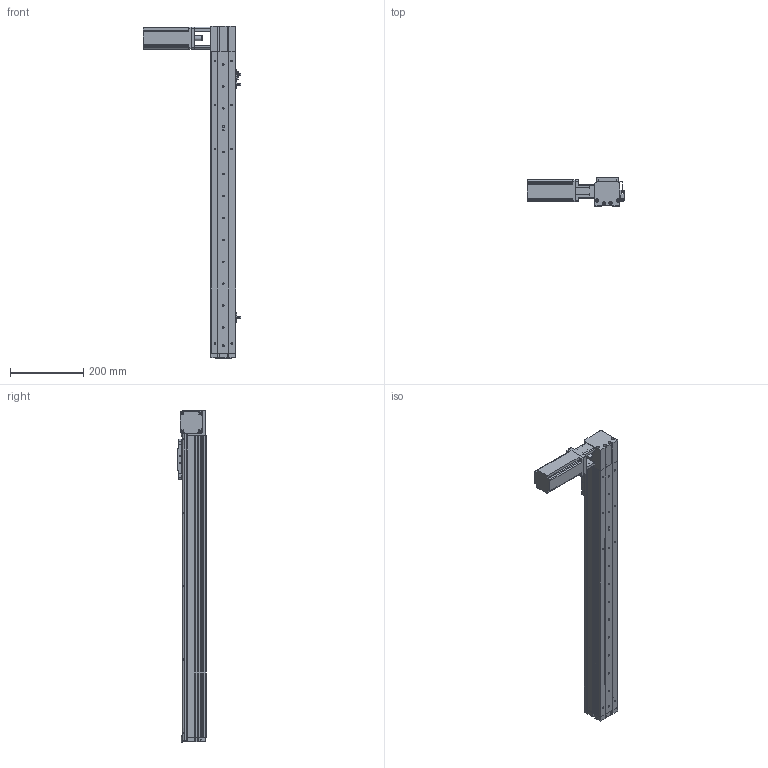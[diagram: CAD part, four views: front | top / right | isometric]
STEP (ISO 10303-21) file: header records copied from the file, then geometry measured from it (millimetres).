
FILE_DESCRIPTION (( 'STEP AP214' ), '1' );
FILE_NAME ('KSD68BS-S650-MLT-CR.STEP', '2019-11-08T05:18:31', ( '微软用户' ), ( '微软中国' ), 'SwSTEP 2.0', 'SolidWorks 2014', '' );
FILE_SCHEMA (( 'AUTOMOTIVE_DESIGN' ));
Length unit declared in the file: millimetre
Products named in the file (13): KSD68BS 650行程底板全封闭; KSD68BS-S650-MLT-CR; 100遵鎮湛假蚾啣1; KSD68BS 650行程盖板全封闭; 68遵裔啣揤啣1; 68宽单导轨全封闭丝杆传动安装板1防护罩; KSD68BS 650行程侧板全封闭; 68宽单导轨全封闭同步带端板; 68单导轨全封闭同步带电机座右; 68单导轨全封闭同步带安装板; 感应片68宽全封闭; U倰嫖萇EEㄜSX672; 台达ECMA－C20604AS伺服电机（400W)
Assembly tree (16 placements, depth 2):
  KSD68BS-S650-MLT-CR
    KSD68BS 650行程底板全封闭
    台达ECMA－C20604AS伺服电机（400W)
    U倰嫖萇EEㄜSX672  x3
    感应片68宽全封闭
    68单导轨全封闭同步带安装板
    68单导轨全封闭同步带电机座右
    68宽单导轨全封闭同步带端板
    KSD68BS 650行程侧板全封闭  x2
    68宽单导轨全封闭丝杆传动安装板1防护罩
    68遵裔啣揤啣1  x2
    KSD68BS 650行程盖板全封闭
    100遵鎮湛假蚾啣1
Bounding box: 266.4 x 77 x 908.1 mm (x, y, z)
Volume: 2015282.8 mm3; surface area: 710683 mm2
Topology: 17 solids, 17 shells, 1348 faces, 3784 edges, 2429 vertices
Faces by surface type: cylinder 612, plane 600, cone 136
Entity records: 41489 total; most frequent: CARTESIAN_POINT 6891, DIRECTION 6214, ORIENTED_EDGE 5936, EDGE_CURVE 2968, AXIS2_PLACEMENT_3D 2218, VERTEX_POINT 1947, VECTOR 1778, LINE 1778
